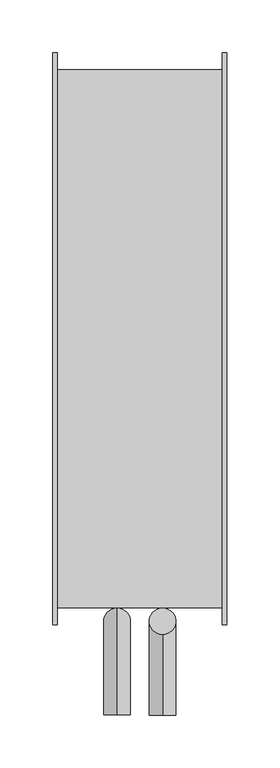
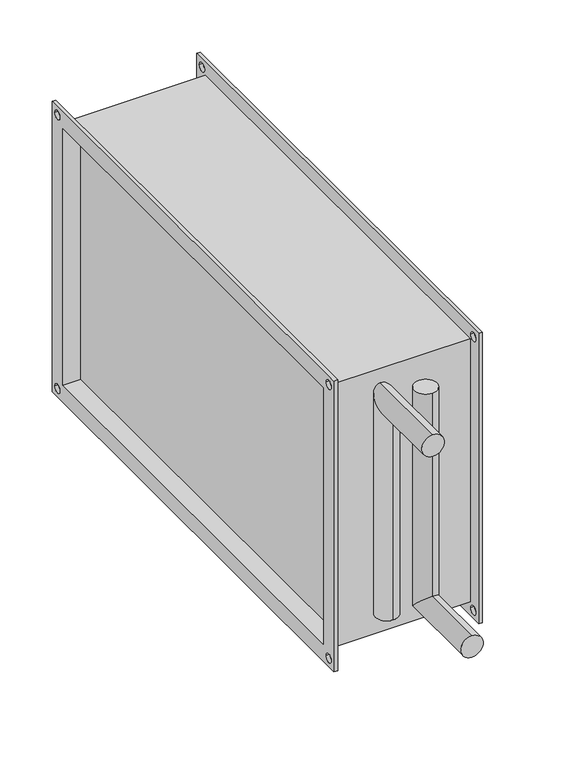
"""IFC4 building model written with IfcOpenShell, lengths in millimetres: proxy geometry, СВ_ВоздухонагревательВодяной_КанальныйПрямоугольный_200-1000_SPH-W : SPH-W-500x300/2."""

import ifcopenshell
import ifcopenshell.guid

model = None  # the IFC model being written
_history = None  # IfcOwnerHistory: only IFC2X3 demands one
_inside = {}  # id of a spatial element -> (the spatial element, [elements in it])
_under = {}  # id of a project, library or spatial element -> (it, [spatial elements below it])
_declared = {}  # id of a project -> (the project, [libraries it declares])
_typed = {}  # id of a type object -> (the type object, [elements of that type])
_made_of = {}  # id of a material, layer set ... -> (it, [elements and type objects made of it])


def new_model(schema):
    """Start an empty IFC model of exactly this schema.

    Asked for "IFC4X3", IfcOpenShell would pick the latest addendum, in which some entities
    have other attributes; the version numbers below select the first issue.
    IFC2X3 requires an IfcOwnerHistory on every rooted entity: one is made here for all.
    """
    global model, _history
    if schema == "IFC4X3":
        model = ifcopenshell.file(schema_version=(4, 3, 0, 0))
    else:
        model = ifcopenshell.file(schema=schema)
    _inside.clear()
    _under.clear()
    _declared.clear()
    _typed.clear()
    _made_of.clear()
    _history = None
    if model.schema == "IFC2X3":
        org = make("IfcOrganization", Name="unknown")
        user = make(
            "IfcPersonAndOrganization",
            ThePerson=make("IfcPerson", FamilyName="unknown"),
            TheOrganization=org,
        )
        app = make(
            "IfcApplication",
            ApplicationDeveloper=org,
            Version="unknown",
            ApplicationFullName="unknown",
            ApplicationIdentifier="unknown",
        )
        _history = make(
            "IfcOwnerHistory",
            OwningUser=user,
            OwningApplication=app,
            ChangeAction="ADDED",
            CreationDate=0,
        )
    return model


def make(cls, **values):
    """One entity of the class cls with the attributes given. An attribute that is None is left unset."""
    return model.create_entity(
        cls, **{name: value for name, value in values.items() if value is not None}
    )


def rooted(cls, **values):
    """An entity with a GlobalId (a new one), such as an element, a storey or a relation."""
    return make(cls, GlobalId=ifcopenshell.guid.new(), OwnerHistory=_history, **values)


def si_unit(unit_type, name, prefix=None):
    """IfcSIUnit, for example si_unit("LENGTHUNIT", "METRE", prefix="MILLI")."""
    return make("IfcSIUnit", UnitType=unit_type, Prefix=prefix, Name=name)


def assignment(units):
    """IfcUnitAssignment: the units of a project."""
    return None if units is None else make("IfcUnitAssignment", Units=units)


def point(xyz):
    """IfcCartesianPoint."""
    return None if xyz is None else make("IfcCartesianPoint", Coordinates=xyz)


def direction(xyz):
    """IfcDirection."""
    return None if xyz is None else make("IfcDirection", DirectionRatios=xyz)


def frame(location, z_axis=None, x_axis=None):
    """IfcAxis2Placement3D, a coordinate frame: its origin and axes. An axis left out is left unset."""
    return make(
        "IfcAxis2Placement3D",
        Location=point(location),
        Axis=direction(z_axis),
        RefDirection=direction(x_axis),
    )


def origin():
    """The frame at (0, 0, 0) with its axes left unset."""
    return frame((0.0, 0.0, 0.0))


def place(relative_to, where):
    """IfcLocalPlacement: puts the frame where relative to a parent placement (None: the world)."""
    return make(
        "IfcLocalPlacement", PlacementRelTo=relative_to, RelativePlacement=where
    )


def context(
    kind, dimensions, precision=None, world=None, true_north=None, identifier=None
):
    """IfcGeometricRepresentationContext, for example the 3D "Model" context."""
    return make(
        "IfcGeometricRepresentationContext",
        ContextIdentifier=identifier,
        ContextType=kind,
        CoordinateSpaceDimension=dimensions,
        Precision=precision,
        WorldCoordinateSystem=world,
        TrueNorth=true_north,
    )


def project(units=None, contexts=None):
    """IfcProject with its units and contexts."""
    return rooted(
        "IfcProject",
        Name="project",
        RepresentationContexts=contexts,
        UnitsInContext=assignment(units),
    )


def spatial(cls, under=None, at=None, **own):
    """A site, building, storey or space (cls), placed at a placement, below another one or the project."""
    s = rooted(cls, ObjectPlacement=at, **own)
    if under is not None:
        _under.setdefault(under.id(), (under, []))[1].append(s)
    return s


def polyline(points):
    """IfcPolyline through the points."""
    return make("IfcPolyline", Points=[point(p) for p in points])


def circle_curve(where, radius):
    """IfcCircle in the frame where."""
    return make("IfcCircle", Position=where, Radius=radius)


def ellipse_curve(where, semi_axis1, semi_axis2):
    """IfcEllipse in the frame where."""
    return make(
        "IfcEllipse", Position=where, SemiAxis1=semi_axis1, SemiAxis2=semi_axis2
    )


def shape(context_of_items, identifier, shape_type, items):
    """IfcShapeRepresentation: the items that make up one representation, for example the "Body"."""
    return make(
        "IfcShapeRepresentation",
        ContextOfItems=context_of_items,
        RepresentationIdentifier=identifier,
        RepresentationType=shape_type,
        Items=items,
    )


def source(mapping_origin, context_of_items, identifier, shape_type, items):
    """IfcRepresentationMap: a shape defined once, which mapped items show again and again."""
    return make(
        "IfcRepresentationMap",
        MappingOrigin=mapping_origin,
        MappedRepresentation=shape(context_of_items, identifier, shape_type, items),
    )


def transform(
    local_origin,
    x_axis=None,
    y_axis=None,
    z_axis=None,
    scale=None,
    scale2=None,
    scale3=None,
    uniform=True,
):
    """IfcCartesianTransformationOperator3D, or its non-uniform kind. x_axis, y_axis, z_axis: its Axis1, 2, 3."""
    if uniform:
        return make(
            "IfcCartesianTransformationOperator3D",
            Axis1=direction(x_axis),
            Axis2=direction(y_axis),
            LocalOrigin=point(local_origin),
            Scale=scale,
            Axis3=direction(z_axis),
        )
    return make(
        "IfcCartesianTransformationOperator3DnonUniform",
        Axis1=direction(x_axis),
        Axis2=direction(y_axis),
        LocalOrigin=point(local_origin),
        Scale=scale,
        Axis3=direction(z_axis),
        Scale2=scale2,
        Scale3=scale3,
    )


def mapped(mapping_source, mapping_target):
    """IfcMappedItem: shows the shape of a source again, moved by a transform."""
    return make(
        "IfcMappedItem", MappingSource=mapping_source, MappingTarget=mapping_target
    )


def made_of(thing, what):
    """Note that an element or type object is made of a material, layer set ...; save() writes the relation."""
    if what is not None:
        _made_of.setdefault(what.id(), (what, []))[1].append(thing)
    return thing


def element(
    cls,
    number,
    at=None,
    inside=None,
    cuts=None,
    type_object=None,
    material=None,
    context=None,
    identifier="Body",
    shape_type=None,
    held_by="IfcProductDefinitionShape",
    body=None,
    shapes=None,
    **own,
):
    """One element of the class cls, such as IfcWall. Its Tag is "e" and its number.

    at: its placement. inside: the storey or other place that contains it. cuts: it is an
    opening in that element (IfcRelVoidsElement). A single representation is given by context,
    identifier, shape_type and body (its items); several are given by shapes. held_by: the class
    of the entity that holds the representations. save() writes the other relations.
    """
    e = rooted(cls, Tag="e%d" % number, ObjectPlacement=at, **own)
    if body is not None:
        shapes = [shape(context, identifier, shape_type, body)]
    if shapes is not None:
        e.Representation = make(held_by, Representations=shapes)
    if inside is not None:
        _inside.setdefault(inside.id(), (inside, []))[1].append(e)
    if cuts is not None:
        rooted(
            "IfcRelVoidsElement", RelatingBuildingElement=cuts, RelatedOpeningElement=e
        )
    if type_object is not None:
        _typed.setdefault(type_object.id(), (type_object, []))[1].append(e)
    return made_of(e, material)


def aggregate(whole, parts):
    """IfcRelAggregates: a whole, such as a stair, and the parts it consists of."""
    return rooted("IfcRelAggregates", RelatingObject=whole, RelatedObjects=parts)


def save(model, path):
    """Write the relations noted so far, then the file.

    IfcRelAggregates (storeys below a building ...), IfcRelContainedInSpatialStructure (elements
    in a storey), IfcRelDefinesByType, IfcRelAssociatesMaterial and IfcRelDeclares: one each for
    every whole, place, type object, material and project.
    """
    for whole, parts in _under.values():
        aggregate(whole, parts)
    for where, things in _inside.values():
        rooted(
            "IfcRelContainedInSpatialStructure",
            RelatedElements=things,
            RelatingStructure=where,
        )
    for kind, things in _typed.values():
        rooted("IfcRelDefinesByType", RelatedObjects=things, RelatingType=kind)
    for what, things in _made_of.values():
        rooted("IfcRelAssociatesMaterial", RelatedObjects=things, RelatingMaterial=what)
    for by, libraries in _declared.values():
        rooted("IfcRelDeclares", RelatingContext=by, RelatedDefinitions=libraries)
    model.write(path)


def plane_surface(at):
    """IfcPlane: the flat surface through the origin of the frame at, square to its z axis."""
    return make("IfcPlane", Position=at)


def cylinder_surface(at, radius):
    """IfcCylindricalSurface: all points at the distance radius from the z axis of the frame at."""
    return make("IfcCylindricalSurface", Position=at, Radius=radius)


def revolved_surface(curve, axis_point, axis_direction):
    """IfcSurfaceOfRevolution: the curve turned about the line through axis_point along axis_direction."""
    return make(
        "IfcSurfaceOfRevolution",
        SweptCurve=make("IfcArbitraryOpenProfileDef", ProfileType="CURVE", Curve=curve),
        AxisPosition=make("IfcAxis1Placement", Location=point(axis_point), Axis=direction(axis_direction)),
    )


def advanced_brep(points, edges, surfaces, faces):
    """IfcAdvancedBrep: a solid bounded by faces that lie on surfaces and meet in shared edges.

    An edge is (start, end): straight between two places in points (the first is 0);
    or (start, end, curve); or (start, end, curve, False) where it runs against its curve.
    A face is (place in surfaces, loops), or (place, loops, False) where it looks against
    its surface's normal. A loop lists edges by number (the first is 1), with a minus sign
    where the edge is run from its end to its start. The first loop is the outer one.
    """
    corners = [point(p) for p in points]
    vertices = [make("IfcVertexPoint", VertexGeometry=c) for c in corners]
    made = []
    for start, end, *more in edges:
        made.append(
            make(
                "IfcEdgeCurve",
                EdgeStart=vertices[start],
                EdgeEnd=vertices[end],
                EdgeGeometry=more[0] if more else make("IfcPolyline", Points=[corners[start], corners[end]]),
                SameSense=more[1] if len(more) > 1 else True,
            )
        )
    hull = []
    for where, loops, *sense in faces:
        bounds = []
        for j, loop in enumerate(loops):
            ring = [make("IfcOrientedEdge", EdgeElement=made[abs(k) - 1], Orientation=k > 0) for k in loop]
            bounds.append(
                make(
                    "IfcFaceOuterBound" if j == 0 else "IfcFaceBound",
                    Bound=make("IfcEdgeLoop", EdgeList=ring),
                    Orientation=True,
                )
            )
        hull.append(make("IfcAdvancedFace", Bounds=bounds, FaceSurface=surfaces[where], SameSense=sense[0] if sense else True))
    return make("IfcAdvancedBrep", Outer=make("IfcClosedShell", CfsFaces=hull))


def mechanical_equipment_e5c17de9(model_context):
    return source(origin(), model_context, "Body", "AdvancedBrep", [
        advanced_brep(
        [(21.5, -254.0, 125.0), (21.5, -279.0, 125.0), (21.5, -254.0, -137.5), (21.5, -279.0, -112.5), (21.5, -355.0, -137.5), (21.5, -355.0, -112.5)],
        [
            (0, 1, circle_curve(frame((21.5, -266.5, 125.0), z_axis=(0.0, 0.0, 1.0), x_axis=(0.0, -1.0, 0.0)), 12.5)),
            (1, 0, circle_curve(frame((21.5, -266.5, 125.0), z_axis=(0.0, 0.0, 1.0), x_axis=(0.0, -1.0, 0.0)), 12.5)),
            (0, 2),
            (2, 3, ellipse_curve(frame((21.5, -266.5, -125.0), z_axis=(0.0, 0.7071067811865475, 0.7071067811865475), x_axis=(0.0, -0.7071067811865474, 0.7071067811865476)), 17.6776695, 12.5)),
            (3, 1),
            (3, 2, ellipse_curve(frame((21.5, -266.5, -125.0), z_axis=(0.0, 0.7071067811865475, 0.7071067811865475), x_axis=(0.0, -0.7071067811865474, 0.7071067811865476)), 17.6776695, 12.5)),
            (4, 5, circle_curve(frame((21.5, -355.0, -125.0), z_axis=(0.0, -1.0, 0.0), x_axis=(0.0, 0.0, 1.0)), 12.5)),
            (5, 4, circle_curve(frame((21.5, -355.0, -125.0), z_axis=(0.0, -1.0, 0.0), x_axis=(0.0, 0.0, 1.0)), 12.5)),
            (2, 4),
            (5, 3),
        ],
        [
            plane_surface(frame((21.5, -266.5, 125.0), z_axis=(0.0, 0.0, 1.0), x_axis=(-1.0, 0.0, 0.0))),
            cylinder_surface(frame((21.5, -266.5, 125.0), z_axis=(0.0, 0.0, 1.0), x_axis=(0.0, -1.0, 0.0)), 12.5),
            plane_surface(frame((21.5, -355.0, -125.0), z_axis=(0.0, -1.0, 0.0), x_axis=(-1.0, 0.0, 0.0))),
            cylinder_surface(frame((21.5, -266.5, -125.0), z_axis=(0.0, 1.0, 0.0), x_axis=(0.0, 0.0, 1.0)), 12.5),
        ],
        [
            (0, [[1, 2]]),
            (1, [[-1, 3, 4, 5]]),
            (1, [[-2, -5, 6, -3]]),
            (2, [[7, 8]]),
            (3, [[-4, 9, -8, 10]]),
            (3, [[-6, -10, -7, -9]]),
        ],
    ),
        advanced_brep(
        [(-21.5, -254.0, -125.0), (-21.5, -279.0, -125.0), (-21.5, -254.0, 137.5), (-21.5, -279.0, 112.5), (-21.5, -355.0, 137.5), (-21.5, -355.0, 112.5)],
        [
            (0, 1, circle_curve(frame((-21.5, -266.5, -125.0), z_axis=(0.0, 0.0, -1.0), x_axis=(0.0, -1.0, 0.0)), 12.5)),
            (1, 0, circle_curve(frame((-21.5, -266.5, -125.0), z_axis=(0.0, 0.0, -1.0), x_axis=(0.0, -1.0, 0.0)), 12.5)),
            (0, 2),
            (2, 3, ellipse_curve(frame((-21.5, -266.5, 125.0), z_axis=(0.0, 0.7071067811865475, -0.7071067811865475), x_axis=(0.0, -0.7071067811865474, -0.7071067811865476)), 17.6776695, 12.5)),
            (3, 1),
            (3, 2, ellipse_curve(frame((-21.5, -266.5, 125.0), z_axis=(0.0, 0.7071067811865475, -0.7071067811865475), x_axis=(0.0, -0.7071067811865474, -0.7071067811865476)), 17.6776695, 12.5)),
            (4, 5, circle_curve(frame((-21.5, -355.0, 125.0), z_axis=(0.0, -1.0, 0.0), x_axis=(0.0, 0.0, -1.0)), 12.5)),
            (5, 4, circle_curve(frame((-21.5, -355.0, 125.0), z_axis=(0.0, -1.0, 0.0), x_axis=(0.0, 0.0, -1.0)), 12.5)),
            (2, 4),
            (5, 3),
        ],
        [
            plane_surface(frame((-21.5, -266.5, -125.0), z_axis=(0.0, 0.0, -1.0), x_axis=(1.0, 0.0, 0.0))),
            cylinder_surface(frame((-21.5, -266.5, -125.0), z_axis=(0.0, 0.0, -1.0), x_axis=(0.0, -1.0, 0.0)), 12.5),
            plane_surface(frame((-21.5, -355.0, 125.0), z_axis=(0.0, -1.0, 0.0), x_axis=(1.0, 0.0, 0.0))),
            cylinder_surface(frame((-21.5, -266.5, 125.0), z_axis=(0.0, 1.0, 0.0), x_axis=(0.0, 0.0, -1.0)), 12.5),
        ],
        [
            (0, [[1, 2]]),
            (1, [[-1, 3, 4, 5]]),
            (1, [[-2, -5, 6, -3]]),
            (2, [[7, 8]]),
            (3, [[-4, 9, -8, 10]]),
            (3, [[-6, -10, -7, -9]]),
        ],
    ),
        advanced_brep(
        [(-78.0, -254.0, 154.0), (-78.0, -254.0, -154.0), (78.0, -254.0, -154.0), (78.0, -254.0, 154.0), (-78.0, 254.0, -154.0), (78.0, 254.0, -154.0), (-78.0, 254.0, 154.0), (78.0, 254.0, 154.0), (62.0, 250.0, -150.0), (62.0, 250.0, 150.0), (62.0, -250.0, 150.0), (62.0, -250.0, -150.0), (-62.0, -250.0, 150.0), (-62.0, 250.0, 150.0), (-62.0, 250.0, -150.0), (-62.0, -250.0, -150.0), (-82.0, -270.0, 170.0), (-82.0, 270.0, 170.0), (-82.0, 270.0, -170.0), (-82.0, -270.0, -170.0), (-82.0, -250.0, 150.0), (-82.0, -250.0, -150.0), (-82.0, 250.0, -150.0), (-82.0, 250.0, 150.0), (-82.0, 255.0, 160.0), (-82.0, 265.0, 160.0), (-82.0, -265.0, 160.0), (-82.0, -255.0, 160.0), (-82.0, -265.0, -160.0), (-82.0, -255.0, -160.0), (-82.0, 255.0, -160.0), (-82.0, 265.0, -160.0), (-78.0, -270.0, 170.0), (-78.0, -270.0, -170.0), (-78.0, 270.0, -170.0), (-78.0, 270.0, 170.0), (-78.0, 265.0, 160.0), (-78.0, 255.0, 160.0), (-78.0, -255.0, 160.0), (-78.0, -265.0, 160.0), (-78.0, -255.0, -160.0), (-78.0, -265.0, -160.0), (-78.0, 265.0, -160.0), (-78.0, 255.0, -160.0), (78.0, 270.0, 170.0), (78.0, 270.0, -170.0), (78.0, -270.0, -170.0), (78.0, -270.0, 170.0), (78.0, 255.0, 160.0), (78.0, 265.0, 160.0), (78.0, -265.0, 160.0), (78.0, -255.0, 160.0), (78.0, -265.0, -160.0), (78.0, -255.0, -160.0), (78.0, 255.0, -160.0), (78.0, 265.0, -160.0), (82.0, 270.0, 170.0), (82.0, -270.0, 170.0), (82.0, -270.0, -170.0), (82.0, 270.0, -170.0), (82.0, 250.0, 150.0), (82.0, 250.0, -150.0), (82.0, -250.0, -150.0), (82.0, -250.0, 150.0), (82.0, 265.0, 160.0), (82.0, 255.0, 160.0), (82.0, -255.0, 160.0), (82.0, -265.0, 160.0), (82.0, -255.0, -160.0), (82.0, -265.0, -160.0), (82.0, 265.0, -160.0), (82.0, 255.0, -160.0)],
        [
            (0, 1),
            (1, 2),
            (2, 3),
            (3, 0),
            (1, 4),
            (4, 5),
            (5, 2),
            (4, 6),
            (6, 7),
            (7, 5),
            (6, 0),
            (3, 7),
            (8, 9),
            (9, 10),
            (10, 11),
            (11, 8),
            (12, 13),
            (13, 14),
            (14, 15),
            (15, 12),
            (16, 17),
            (17, 18),
            (18, 19),
            (19, 16),
            (20, 21),
            (21, 22),
            (22, 23),
            (23, 20),
            (24, 25, circle_curve(frame((-82.0, 260.0, 160.0), z_axis=(1.0, 0.0, 0.0), x_axis=(0.0, -1.0, 0.0)), 5.0)),
            (25, 24, circle_curve(frame((-82.0, 260.0, 160.0), z_axis=(1.0, 0.0, 0.0), x_axis=(0.0, -1.0, 0.0)), 5.0)),
            (26, 27, circle_curve(frame((-82.0, -260.0, 160.0), z_axis=(1.0, 0.0, 0.0), x_axis=(0.0, -1.0, 0.0)), 5.0)),
            (27, 26, circle_curve(frame((-82.0, -260.0, 160.0), z_axis=(1.0, 0.0, 0.0), x_axis=(0.0, -1.0, 0.0)), 5.0)),
            (28, 29, circle_curve(frame((-82.0, -260.0, -160.0), z_axis=(1.0, 0.0, 0.0), x_axis=(0.0, -1.0, 0.0)), 5.0)),
            (29, 28, circle_curve(frame((-82.0, -260.0, -160.0), z_axis=(1.0, 0.0, 0.0), x_axis=(0.0, -1.0, 0.0)), 5.0)),
            (30, 31, circle_curve(frame((-82.0, 260.0, -160.0), z_axis=(1.0, 0.0, 0.0), x_axis=(0.0, -1.0, 0.0)), 5.0)),
            (31, 30, circle_curve(frame((-82.0, 260.0, -160.0), z_axis=(1.0, 0.0, 0.0), x_axis=(0.0, -1.0, 0.0)), 5.0)),
            (32, 33),
            (33, 34),
            (34, 35),
            (35, 32),
            (36, 37, circle_curve(frame((-78.0, 260.0, 160.0), z_axis=(-1.0, 0.0, 0.0), x_axis=(0.0, -1.0, 0.0)), 5.0)),
            (37, 36, circle_curve(frame((-78.0, 260.0, 160.0), z_axis=(-1.0, 0.0, 0.0), x_axis=(0.0, -1.0, 0.0)), 5.0)),
            (38, 39, circle_curve(frame((-78.0, -260.0, 160.0), z_axis=(-1.0, 0.0, 0.0), x_axis=(0.0, -1.0, 0.0)), 5.0)),
            (39, 38, circle_curve(frame((-78.0, -260.0, 160.0), z_axis=(-1.0, 0.0, 0.0), x_axis=(0.0, -1.0, 0.0)), 5.0)),
            (40, 41, circle_curve(frame((-78.0, -260.0, -160.0), z_axis=(-1.0, 0.0, 0.0), x_axis=(0.0, -1.0, 0.0)), 5.0)),
            (41, 40, circle_curve(frame((-78.0, -260.0, -160.0), z_axis=(-1.0, 0.0, 0.0), x_axis=(0.0, -1.0, 0.0)), 5.0)),
            (42, 43, circle_curve(frame((-78.0, 260.0, -160.0), z_axis=(-1.0, 0.0, 0.0), x_axis=(0.0, -1.0, 0.0)), 5.0)),
            (43, 42, circle_curve(frame((-78.0, 260.0, -160.0), z_axis=(-1.0, 0.0, 0.0), x_axis=(0.0, -1.0, 0.0)), 5.0)),
            (19, 33),
            (32, 16),
            (18, 34),
            (17, 35),
            (44, 45),
            (45, 46),
            (46, 47),
            (47, 44),
            (48, 49, circle_curve(frame((78.0, 260.0, 160.0), z_axis=(1.0, 0.0, 0.0), x_axis=(0.0, -1.0, 0.0)), 5.0)),
            (49, 48, circle_curve(frame((78.0, 260.0, 160.0), z_axis=(1.0, 0.0, 0.0), x_axis=(0.0, -1.0, 0.0)), 5.0)),
            (50, 51, circle_curve(frame((78.0, -260.0, 160.0), z_axis=(1.0, 0.0, 0.0), x_axis=(0.0, -1.0, 0.0)), 5.0)),
            (51, 50, circle_curve(frame((78.0, -260.0, 160.0), z_axis=(1.0, 0.0, 0.0), x_axis=(0.0, -1.0, 0.0)), 5.0)),
            (52, 53, circle_curve(frame((78.0, -260.0, -160.0), z_axis=(1.0, 0.0, 0.0), x_axis=(0.0, -1.0, 0.0)), 5.0)),
            (53, 52, circle_curve(frame((78.0, -260.0, -160.0), z_axis=(1.0, 0.0, 0.0), x_axis=(0.0, -1.0, 0.0)), 5.0)),
            (54, 55, circle_curve(frame((78.0, 260.0, -160.0), z_axis=(1.0, 0.0, 0.0), x_axis=(0.0, -1.0, 0.0)), 5.0)),
            (55, 54, circle_curve(frame((78.0, 260.0, -160.0), z_axis=(1.0, 0.0, 0.0), x_axis=(0.0, -1.0, 0.0)), 5.0)),
            (56, 57),
            (57, 58),
            (58, 59),
            (59, 56),
            (60, 61),
            (61, 62),
            (62, 63),
            (63, 60),
            (64, 65, circle_curve(frame((82.0, 260.0, 160.0), z_axis=(-1.0, 0.0, 0.0), x_axis=(0.0, -1.0, 0.0)), 5.0)),
            (65, 64, circle_curve(frame((82.0, 260.0, 160.0), z_axis=(-1.0, 0.0, 0.0), x_axis=(0.0, -1.0, 0.0)), 5.0)),
            (66, 67, circle_curve(frame((82.0, -260.0, 160.0), z_axis=(-1.0, 0.0, 0.0), x_axis=(0.0, -1.0, 0.0)), 5.0)),
            (67, 66, circle_curve(frame((82.0, -260.0, 160.0), z_axis=(-1.0, 0.0, 0.0), x_axis=(0.0, -1.0, 0.0)), 5.0)),
            (68, 69, circle_curve(frame((82.0, -260.0, -160.0), z_axis=(-1.0, 0.0, 0.0), x_axis=(0.0, -1.0, 0.0)), 5.0)),
            (69, 68, circle_curve(frame((82.0, -260.0, -160.0), z_axis=(-1.0, 0.0, 0.0), x_axis=(0.0, -1.0, 0.0)), 5.0)),
            (70, 71, circle_curve(frame((82.0, 260.0, -160.0), z_axis=(-1.0, 0.0, 0.0), x_axis=(0.0, -1.0, 0.0)), 5.0)),
            (71, 70, circle_curve(frame((82.0, 260.0, -160.0), z_axis=(-1.0, 0.0, 0.0), x_axis=(0.0, -1.0, 0.0)), 5.0)),
            (47, 57),
            (56, 44),
            (46, 58),
            (45, 59),
            (23, 13),
            (12, 20),
            (22, 14),
            (21, 15),
            (60, 9),
            (8, 61),
            (11, 62),
            (10, 63),
            (36, 25),
            (24, 37),
            (64, 49),
            (48, 65),
            (38, 27),
            (26, 39),
            (66, 51),
            (50, 67),
            (40, 29),
            (28, 41),
            (68, 53),
            (52, 69),
            (42, 31),
            (30, 43),
            (70, 55),
            (54, 71),
        ],
        [
            plane_surface(frame((-62.0, -254.0, 154.0), z_axis=(0.0, -1.0, 0.0), x_axis=(-1.0, 0.0, 0.0))),
            plane_surface(frame((-62.0, -254.0, -154.0), z_axis=(0.0, 0.0, -1.0), x_axis=(-1.0, 0.0, 0.0))),
            plane_surface(frame((-62.0, 254.0, -154.0), z_axis=(0.0, 1.0, 0.0), x_axis=(-1.0, 0.0, 0.0))),
            plane_surface(frame((-62.0, 254.0, 154.0), z_axis=(0.0, 0.0, 1.0), x_axis=(-1.0, 0.0, 0.0))),
            plane_surface(frame((62.0, -254.0, 154.0), z_axis=(1.0, 0.0, 0.0), x_axis=(0.0, 0.0, -1.0))),
            plane_surface(frame((-62.0, -254.0, 154.0), z_axis=(-1.0, 0.0, 0.0), x_axis=(0.0, 0.0, 1.0))),
            plane_surface(frame((-82.0, -270.0, 170.0), z_axis=(-1.0, 0.0, 0.0), x_axis=(0.0, 0.0, 1.0))),
            plane_surface(frame((-78.0, -270.0, 170.0), z_axis=(1.0, 0.0, 0.0), x_axis=(0.0, 0.0, -1.0))),
            plane_surface(frame((-78.0, -270.0, 170.0), z_axis=(0.0, -1.0, 0.0), x_axis=(-1.0, 0.0, 0.0))),
            plane_surface(frame((-78.0, -270.0, -170.0), z_axis=(0.0, 0.0, -1.0), x_axis=(-1.0, 0.0, 0.0))),
            plane_surface(frame((-78.0, 270.0, -170.0), z_axis=(0.0, 1.0, 0.0), x_axis=(-1.0, 0.0, 0.0))),
            plane_surface(frame((-78.0, 270.0, 170.0), z_axis=(0.0, 0.0, 1.0), x_axis=(-1.0, 0.0, 0.0))),
            plane_surface(frame((78.0, 250.0, -150.0), z_axis=(-1.0, 0.0, 0.0), x_axis=(0.0, 0.0, 1.0))),
            plane_surface(frame((82.0, 250.0, -150.0), z_axis=(1.0, 0.0, 0.0), x_axis=(0.0, 0.0, -1.0))),
            plane_surface(frame((82.0, 270.0, 170.0), z_axis=(0.0, 0.0, 1.0), x_axis=(-1.0, 0.0, 0.0))),
            plane_surface(frame((82.0, -270.0, 170.0), z_axis=(0.0, -1.0, 0.0), x_axis=(-1.0, 0.0, 0.0))),
            plane_surface(frame((82.0, -270.0, -170.0), z_axis=(0.0, 0.0, -1.0), x_axis=(-1.0, 0.0, 0.0))),
            plane_surface(frame((82.0, 270.0, -170.0), z_axis=(0.0, 1.0, 0.0), x_axis=(-1.0, 0.0, 0.0))),
            plane_surface(frame((-78.0, -250.0, 150.0), z_axis=(0.0, 0.0, -1.0), x_axis=(-1.0, 0.0, 0.0))),
            plane_surface(frame((-78.0, 250.0, 150.0), z_axis=(0.0, -1.0, 0.0), x_axis=(-1.0, 0.0, 0.0))),
            plane_surface(frame((-78.0, 250.0, -150.0), z_axis=(0.0, 0.0, 1.0), x_axis=(-1.0, 0.0, 0.0))),
            plane_surface(frame((-78.0, -250.0, -150.0), z_axis=(0.0, 1.0, 0.0), x_axis=(-1.0, 0.0, 0.0))),
            plane_surface(frame((82.0, 250.0, 150.0), z_axis=(0.0, -1.0, 0.0), x_axis=(-1.0, 0.0, 0.0))),
            plane_surface(frame((82.0, 250.0, -150.0), z_axis=(0.0, 0.0, 1.0), x_axis=(-1.0, 0.0, 0.0))),
            plane_surface(frame((82.0, -250.0, -150.0), z_axis=(0.0, 1.0, 0.0), x_axis=(-1.0, 0.0, 0.0))),
            plane_surface(frame((82.0, -250.0, 150.0), z_axis=(0.0, 0.0, -1.0), x_axis=(-1.0, 0.0, 0.0))),
            revolved_surface(polyline([(-82.0, 255.0, 160.0), (-78.0, 255.0, 160.0)]), (82.0, 260.0, 160.0), (-1.0, 0.0, 0.0)),
            revolved_surface(polyline([(78.0, 255.0, 160.0), (82.0, 255.0, 160.0)]), (82.0, 260.0, 160.0), (-1.0, 0.0, 0.0)),
            revolved_surface(polyline([(-82.0, -265.0, 160.0), (-78.0, -265.0, 160.0)]), (21.5, -260.0, 160.0), (-1.0, 0.0, 0.0)),
            revolved_surface(polyline([(78.0, -265.0, 160.0), (82.0, -265.0, 160.0)]), (21.5, -260.0, 160.0), (-1.0, 0.0, 0.0)),
            revolved_surface(polyline([(-82.0, -265.0, -160.0), (-78.0, -265.0, -160.0)]), (21.5, -260.0, -160.0), (-1.0, 0.0, 0.0)),
            revolved_surface(polyline([(78.0, -265.0, -160.0), (82.0, -265.0, -160.0)]), (21.5, -260.0, -160.0), (-1.0, 0.0, 0.0)),
            revolved_surface(polyline([(-82.0, 255.0, -160.0), (-78.0, 255.0, -160.0)]), (21.5, 260.0, -160.0), (-1.0, 0.0, 0.0)),
            revolved_surface(polyline([(78.0, 255.0, -160.0), (82.0, 255.0, -160.0)]), (21.5, 260.0, -160.0), (-1.0, 0.0, 0.0)),
        ],
        [
            (0, [[1, 2, 3, 4]]),
            (1, [[-2, 5, 6, 7]]),
            (2, [[-6, 8, 9, 10]]),
            (3, [[-9, 11, -4, 12]]),
            (4, [[13, 14, 15, 16]]),
            (5, [[17, 18, 19, 20]]),
            (6, [[21, 22, 23, 24], [25, 26, 27, 28], [29, 30], [31, 32], [33, 34], [35, 36]]),
            (7, [[37, 38, 39, 40], [-1, -11, -8, -5], [41, 42], [43, 44], [45, 46], [47, 48]]),
            (8, [[-24, 49, -37, 50]]),
            (9, [[-23, 51, -38, -49]]),
            (10, [[-22, 52, -39, -51]]),
            (11, [[-21, -50, -40, -52]]),
            (12, [[53, 54, 55, 56], [-3, -7, -10, -12], [57, 58], [59, 60], [61, 62], [63, 64]]),
            (13, [[65, 66, 67, 68], [69, 70, 71, 72], [73, 74], [75, 76], [77, 78], [79, 80]]),
            (14, [[-56, 81, -65, 82]]),
            (15, [[-55, 83, -66, -81]]),
            (16, [[-54, 84, -67, -83]]),
            (17, [[-53, -82, -68, -84]]),
            (18, [[-28, 85, -17, 86]]),
            (19, [[-27, 87, -18, -85]]),
            (20, [[-26, 88, -19, -87]]),
            (21, [[-25, -86, -20, -88]]),
            (22, [[-69, 89, -13, 90]]),
            (23, [[-70, -90, -16, 91]]),
            (24, [[-71, -91, -15, 92]]),
            (25, [[-89, -72, -92, -14]]),
            (26, [[93, -29, 94, -41]]),
            (27, [[95, -57, 96, -73]]),
            (26, [[-93, -42, -94, -30]]),
            (27, [[-95, -74, -96, -58]]),
            (28, [[97, -31, 98, -43]]),
            (29, [[99, -59, 100, -75]]),
            (28, [[-97, -44, -98, -32]]),
            (29, [[-99, -76, -100, -60]]),
            (30, [[101, -33, 102, -45]]),
            (31, [[103, -61, 104, -77]]),
            (30, [[-101, -46, -102, -34]]),
            (31, [[-103, -78, -104, -62]]),
            (32, [[105, -35, 106, -47]]),
            (33, [[107, -63, 108, -79]]),
            (32, [[-105, -48, -106, -36]]),
            (33, [[-107, -80, -108, -64]]),
        ],
    ),
    ])


if __name__ == "__main__":
    model = new_model("IFC4")
    model_context = context("Model", 3, world=origin())
    ifc_project = project(units=[si_unit("LENGTHUNIT", "METRE", prefix="MILLI")], contexts=[model_context])
    site = spatial("IfcSite", under=ifc_project)
    building = spatial("IfcBuilding", under=site)
    placement = place(None, origin())
    mechanical_equipment_shape = mechanical_equipment_e5c17de9(model_context)
    element("IfcBuildingElementProxy", 1, Name="СВ_ВоздухонагревательВодяной_КанальныйПрямоугольный_200-1000_SPH-W : SPH-W-500x300/2", ObjectType="СВ_ВоздухонагревательВодяной_КанальныйПрямоугольный_200-1000_SPH-W : SPH-W-500x300/2", at=placement, inside=building, context=model_context, shape_type="MappedRepresentation", body=[
        mapped(mechanical_equipment_shape, transform((0.0, 0.0, 0.0), x_axis=(1.0, 0.0, 0.0), y_axis=(0.0, 1.0, 0.0), z_axis=(0.0, 0.0, 1.0))),
    ])
    save(model, "model.ifc")
